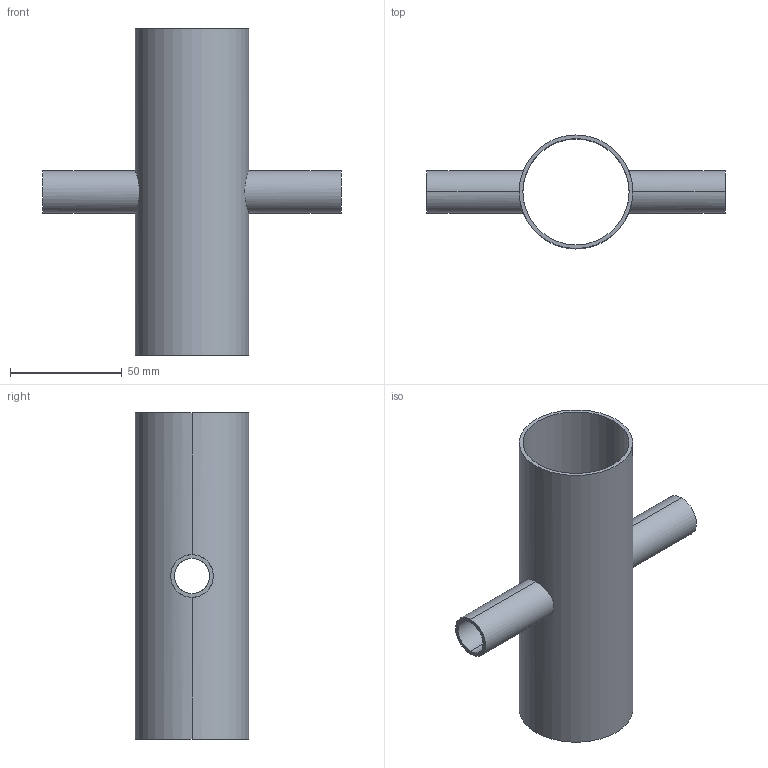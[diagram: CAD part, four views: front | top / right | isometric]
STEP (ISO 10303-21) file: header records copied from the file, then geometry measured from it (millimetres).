
FILE_DESCRIPTION (( 'STEP AP214' ), '1' );
FILE_NAME ('TE9RWWWW6L2.0x.75-...STEP', '2016-05-22T04:15:41', ( 'eran' ), ( '' ), 'SwSTEP 2.0', 'SolidWorks 2016', '' );
FILE_SCHEMA (( 'AUTOMOTIVE_DESIGN' ));
Length unit declared in the file: millimetre
Products named in the file (1): TE9RWWWW6L2.0x.75-..
Bounding box: 133.35 x 50.8 x 146.05 mm (x, y, z)
Volume: 44169.1 mm3; surface area: 54180.3 mm2
Topology: 1 solids, 1 shells, 16 faces, 40 edges, 24 vertices
Faces by surface type: cylinder 12, plane 4
Entity records: 874 total; most frequent: CARTESIAN_POINT 449, DIRECTION 82, ORIENTED_EDGE 80, EDGE_CURVE 40, AXIS2_PLACEMENT_3D 33, VERTEX_POINT 24, EDGE_LOOP 20, ADVANCED_FACE 16
